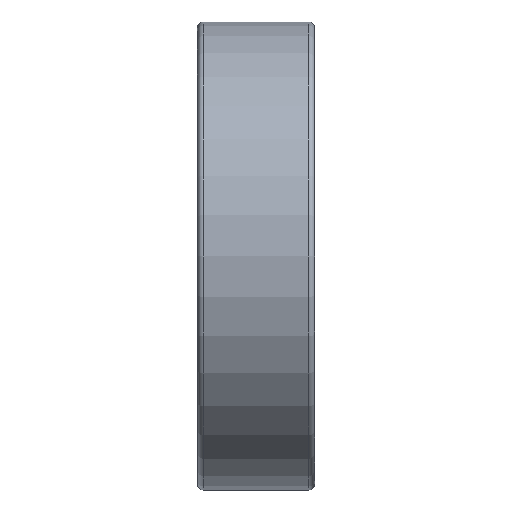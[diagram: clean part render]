
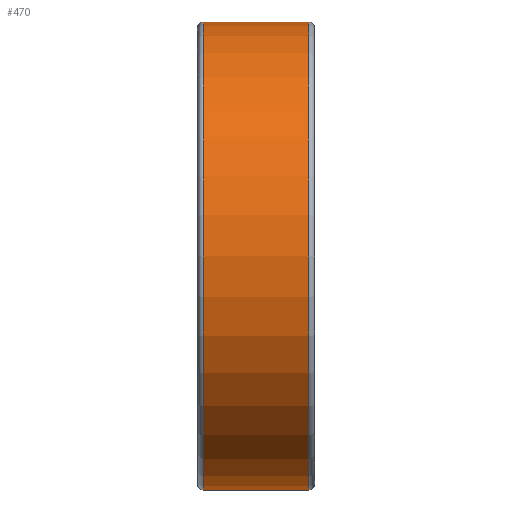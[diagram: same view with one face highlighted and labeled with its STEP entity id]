
A CAD part, front view. The second image highlights one B-rep face of the part: STEP entity #470.
In plain terms, the highlighted cylindrical face has radius 12 mm (diameter 24 mm), a full revolution.
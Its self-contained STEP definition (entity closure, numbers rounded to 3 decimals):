
#152=CYLINDRICAL_SURFACE('',#722,12.);
#232=EDGE_LOOP('',(#324));
#233=EDGE_LOOP('',(#325));
#324=ORIENTED_EDGE('',*,*,#378,.F.);
#325=ORIENTED_EDGE('',*,*,#376,.T.);
#376=EDGE_CURVE('',#659,#659,#396,.T.);
#378=EDGE_CURVE('',#661,#661,#398,.T.);
#396=CIRCLE('',#718,12.);
#398=CIRCLE('',#721,12.);
#470=ADVANCED_FACE('',(#581,#582),#152,.T.);
#581=FACE_BOUND('',#232,.T.);
#582=FACE_BOUND('',#233,.T.);
#659=VERTEX_POINT('',#2474);
#661=VERTEX_POINT('',#2479);
#718=AXIS2_PLACEMENT_3D('',#2473,#831,#832);
#721=AXIS2_PLACEMENT_3D('',#2478,#837,#838);
#722=AXIS2_PLACEMENT_3D('',#2480,#839,#840);
#831=DIRECTION('',(1.,0.,0.));
#832=DIRECTION('',(0.,0.,-1.));
#837=DIRECTION('',(1.,0.,0.));
#838=DIRECTION('',(0.,0.,-1.));
#839=DIRECTION('',(1.,0.,0.));
#840=DIRECTION('',(0.,0.,-1.));
#2473=CARTESIAN_POINT('',(-2.7,0.,0.));
#2474=CARTESIAN_POINT('',(-2.7,0.,-12.));
#2478=CARTESIAN_POINT('',(2.7,0.,0.));
#2479=CARTESIAN_POINT('',(2.7,0.,-12.));
#2480=CARTESIAN_POINT('',(-2.7,0.,0.));
